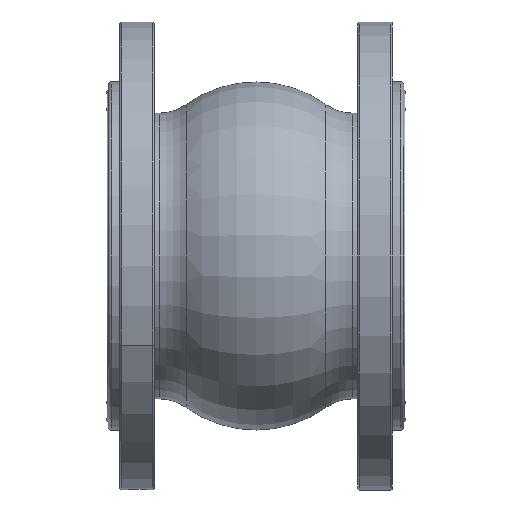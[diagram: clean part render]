
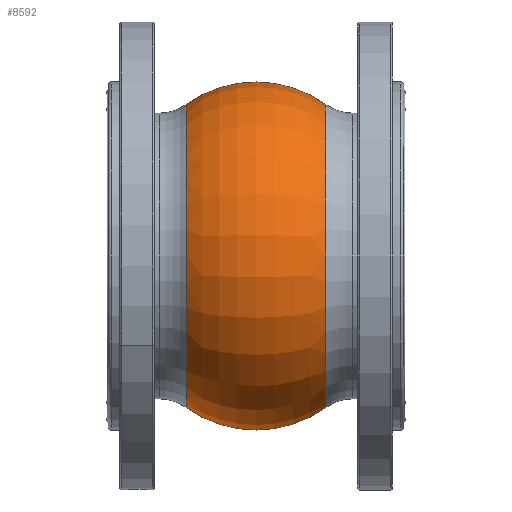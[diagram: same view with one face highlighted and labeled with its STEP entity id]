
A CAD part, front view. The second image highlights one B-rep face of the part: STEP entity #8592.
In plain terms, the highlighted toroidal (fillet/blend) face has major radius 33 mm and minor radius 73 mm.
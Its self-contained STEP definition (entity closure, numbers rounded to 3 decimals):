
#719 = CARTESIAN_POINT ( 'NONE',  ( 0., 0., -33. ) ) ;
#811 = CIRCLE ( 'NONE', #13020, 73. ) ;
#1141 = DIRECTION ( 'NONE',  ( 0., 0., 1. ) ) ;
#1751 = EDGE_LOOP ( 'NONE', ( #12964, #10102, #7882, #3966 ) ) ;
#1841 = DIRECTION ( 'NONE',  ( 0., 0., 1. ) ) ;
#1848 = TOROIDAL_SURFACE ( 'NONE', #7811, 33., 73. ) ;
#1886 = DIRECTION ( 'NONE',  ( -1., 0., 0. ) ) ;
#2145 = DIRECTION ( 'NONE',  ( -1., 0., 0. ) ) ;
#2445 = CARTESIAN_POINT ( 'NONE',  ( 42.619, 0., -92.267 ) ) ;
#2692 = CIRCLE ( 'NONE', #6976, 73. ) ;
#2923 = EDGE_CURVE ( 'NONE', #12475, #12306, #811, .T. ) ;
#3140 = EDGE_CURVE ( 'NONE', #12475, #8726, #5797, .T. ) ;
#3486 = CARTESIAN_POINT ( 'NONE',  ( 0., 0., 33. ) ) ;
#3742 = AXIS2_PLACEMENT_3D ( 'NONE', #8316, #2145, #9374 ) ;
#3966 = ORIENTED_EDGE ( 'NONE', *, *, #6521, .F. ) ;
#4134 = AXIS2_PLACEMENT_3D ( 'NONE', #6170, #1886, #1841 ) ;
#4436 = DIRECTION ( 'NONE',  ( 0., 0., -1. ) ) ;
#4571 = FACE_OUTER_BOUND ( 'NONE', #1751, .T. ) ;
#4920 = CARTESIAN_POINT ( 'NONE',  ( -42.619, 0., -92.267 ) ) ;
#5095 = CARTESIAN_POINT ( 'NONE',  ( 0., 0., 0. ) ) ;
#5259 = EDGE_CURVE ( 'NONE', #8726, #5569, #2692, .T. ) ;
#5569 = VERTEX_POINT ( 'NONE', #10267 ) ;
#5797 = CIRCLE ( 'NONE', #3742, 92.267 ) ;
#6170 = CARTESIAN_POINT ( 'NONE',  ( -42.619, 0., 0. ) ) ;
#6521 = EDGE_CURVE ( 'NONE', #12306, #5569, #7996, .T. ) ;
#6976 = AXIS2_PLACEMENT_3D ( 'NONE', #3486, #12780, #4436 ) ;
#7811 = AXIS2_PLACEMENT_3D ( 'NONE', #5095, #10294, #1141 ) ;
#7882 = ORIENTED_EDGE ( 'NONE', *, *, #5259, .T. ) ;
#7996 = CIRCLE ( 'NONE', #4134, 92.267 ) ;
#8316 = CARTESIAN_POINT ( 'NONE',  ( 42.619, 0., 0. ) ) ;
#8592 = ADVANCED_FACE ( 'NONE', ( #4571 ), #1848, .T. ) ;
#8726 = VERTEX_POINT ( 'NONE', #10467 ) ;
#9374 = DIRECTION ( 'NONE',  ( 0., 0., 1. ) ) ;
#10102 = ORIENTED_EDGE ( 'NONE', *, *, #3140, .T. ) ;
#10267 = CARTESIAN_POINT ( 'NONE',  ( -42.619, 0., 92.267 ) ) ;
#10294 = DIRECTION ( 'NONE',  ( -1., 0., 0. ) ) ;
#10467 = CARTESIAN_POINT ( 'NONE',  ( 42.619, 0., 92.267 ) ) ;
#10668 = DIRECTION ( 'NONE',  ( 0., 0., 1. ) ) ;
#12038 = DIRECTION ( 'NONE',  ( 0., 1., 0. ) ) ;
#12306 = VERTEX_POINT ( 'NONE', #4920 ) ;
#12475 = VERTEX_POINT ( 'NONE', #2445 ) ;
#12780 = DIRECTION ( 'NONE',  ( 0., -1., 0. ) ) ;
#12964 = ORIENTED_EDGE ( 'NONE', *, *, #2923, .F. ) ;
#13020 = AXIS2_PLACEMENT_3D ( 'NONE', #719, #12038, #10668 ) ;
